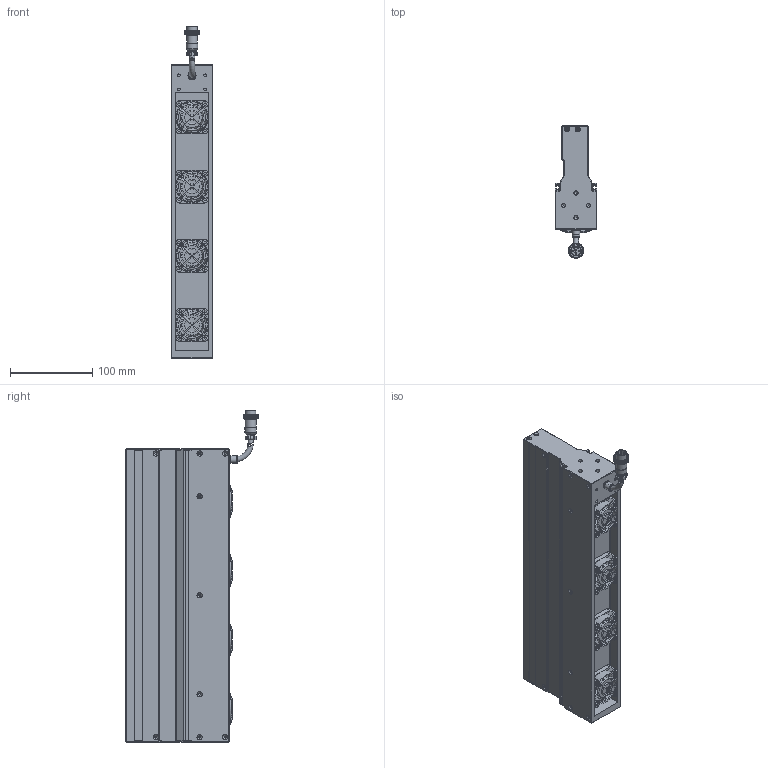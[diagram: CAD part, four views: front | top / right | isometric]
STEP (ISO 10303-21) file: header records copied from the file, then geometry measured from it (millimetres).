
FILE_DESCRIPTION (( 'STEP AP203' ), '1' );
FILE_NAME ('OPT-LSSC356-W-V3.1U尨砩芞.STEP', '2025-02-05T05:49:51', ( 'USER' ), ( '' ), 'SwSTEP 2.0', 'SolidWorks 2016', '' );
FILE_SCHEMA (( 'CONFIG_CONTROL_DESIGN' ));
Products named in the file (2): OPT-LSSC356-W-V3.1U尨砩芞
Bounding box: 50 x 160.65 x 402.83 mm (x, y, z)
Volume: 1390772.2 mm3; surface area: 284427.5 mm2
Topology: 22 solids, 30 shells, 4171 faces, 9310 edges, 5302 vertices
Faces by surface type: bspline 2167, cylinder 895, plane 886, torus 156, cone 67
Full cylindrical faces by diameter (mm): 0.95 x6, 1.6 x16, 2 x8, 2.5 x22, 3.2 x20, 3.4 x24, 3.5 x4, 5 x8, 6.2 x16, 6.4 x3, 7.5 x1, 8.6 x1, 9.3 x1, 9.8 x1, 10 x1, 13.2 x1, 14 x1, 16.1 x1, 24.8 x4, 38 x4
Entity records: 139711 total; most frequent: CARTESIAN_POINT 68189, ORIENTED_EDGE 17830, EDGE_CURVE 8915, DIRECTION 8006, B_SPLINE_CURVE_WITH_KNOTS 5872, VERTEX_POINT 5207, EDGE_LOOP 4608, FACE_OUTER_BOUND 4394
